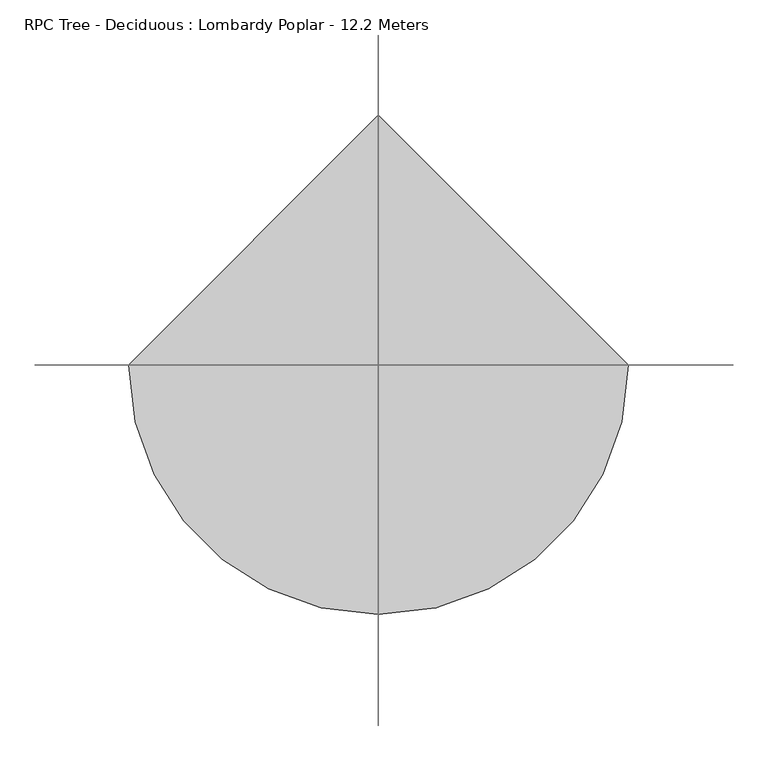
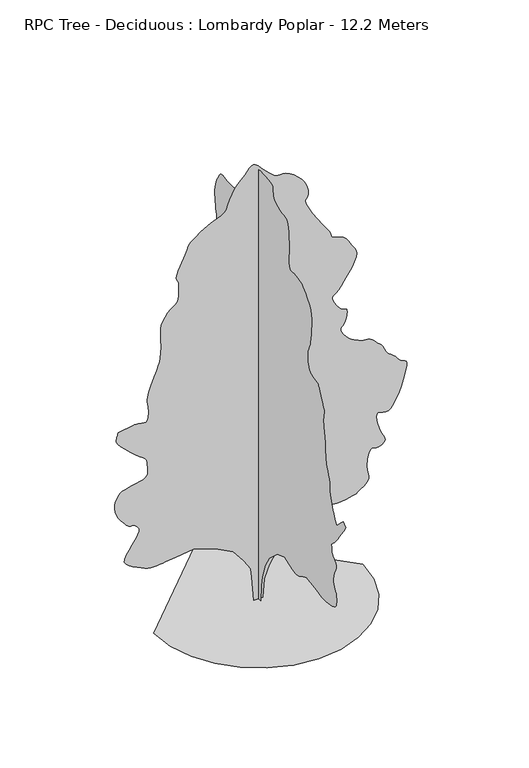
"""IFC4 building model written with IfcOpenShell, lengths in millimetres: geographic element geometry, RPC Tree - Deciduous : Lombardy Poplar - 12.2 Meters."""

from ifc_helpers import new_model, si_unit, origin, place, context, project, spatial, triangles, source, transform, mapped, element, save


def rpc_tree_deciduous_lombardy_poplar_12_2_meters_e292760b(model_context):
    return source(origin(), model_context, "Body", "Tessellation", [
        triangles([(0.0009702, 113.8903775, 0.0), (0.0009702, -104.9033079, 0.0), (0.0009702, -123.1361794, 437.5878977), (0.0009702, -177.8345485, 729.312315), (0.0009702, -323.695976, 1130.4323805), (0.0009702, -506.0246724, 1440.3907139), (0.0009702, -870.6795582, 1768.5802746), (0.0009702, -1217.1031076, 1896.2099842), (0.0009702, -1399.4317314, 1823.2794067), (0.0009702, -1477.3592422, 1796.3301796), (0.0009702, -1554.013139, 1771.7701962), (0.0009702, -1628.1128311, 1751.9959671), (0.0009702, -1698.3871754, 1739.3994976), (0.0009702, -1763.5554359, 1736.3672699), (0.0009702, -1822.3466148, 1745.2987015), (0.0009702, -1873.4849178, 1768.5802746), (0.0009702, -1920.3683933, 1798.2415455), (0.0009702, -1967.2544849, 1825.0332241), (0.0009702, -2014.1379604, 1849.4331882), (0.0009702, -2061.0214359, 1871.9166996), (0.0009702, -2107.9050568, 1892.969339), (0.0009702, -2154.791003, 1913.0611359), (0.0009702, -2201.6746239, 1932.6776711), (0.0009702, -2584.5657875, 1877.9785389), (0.0009702, -2650.9541771, 1862.4566666), (0.0009702, -2717.1899597, 1847.5726913), (0.0009702, -2783.0952393, 1833.9646557), (0.0009702, -2848.5429886, 1822.2704567), (0.0009702, -2913.3300224, 1813.1255207), (0.0009702, -2977.329023, 1807.1729771), (0.0009702, -3040.387674, 1805.045636), (0.0009702, -3113.6893044, 1807.4372051), (0.0009702, -3202.6219574, 1815.2528618), (0.0009702, -3298.2393768, 1829.4456001), (0.0009702, -3391.6453033, 1850.9733559), (0.0009702, -3473.8681915, 1880.7947914), (0.0009702, -3536.0117821, 1919.8652264), (0.0009702, -3569.1298187, 1969.1428871), (0.0009702, -3581.5837097, 2022.7771133), (0.0009702, -3588.2684761, 2074.4973576), (0.0009702, -3590.1747551, 2124.6265652), (0.0009702, -3588.2684761, 2173.4773624), (0.0009702, -3583.4899887, 2221.3724041), (0.0009702, -3576.7802238, 2268.6270779), (0.0009702, -3569.1298187, 2315.5638931), (0.0009702, -3534.359848, 2355.0613369), (0.0009702, -3502.0042648, 2397.1080437), (0.0009702, -3474.4018799, 2444.2583633), (0.0009702, -3453.9923698, 2499.0617043), (0.0009702, -3443.1648331, 2564.0801193), (0.0009702, -3444.2577896, 2641.8294434), (0.0009702, -3459.736496, 2734.9307373), (0.0009702, -3486.8051926, 2827.040522), (0.0009702, -3517.6864471, 2902.5786438), (0.0009702, -3547.2968491, 2965.0274483), (0.0009702, -3570.5276985, 3017.919278), (0.0009702, -3582.270005, 3064.7620583), (0.0009702, -3577.4156502, 3109.0378441), (0.0009702, -3550.9059311, 3154.2795593), (0.0009702, -3512.094928, 3195.2003174), (0.0009702, -3474.8849899, 3227.1998177), (0.0009702, -3440.8774727, 3254.7513336), (0.0009702, -3411.622863, 3282.2775604), (0.0009702, -3388.7733856, 3314.2770607), (0.0009702, -3373.8792366, 3355.1981094), (0.0009702, -3368.5670609, 3409.5386879), (0.0009702, -3364.9071098, 3462.7866005), (0.0009702, -3357.1040977, 3500.758992), (0.0009702, -3349.9112228, 3528.1834808), (0.0009702, -3348.1575508, 3549.8638435), (0.0009702, -3356.6212784, 3570.6038567), (0.0009702, -3380.0553131, 3595.1564278), (0.0009702, -3423.2637222, 3628.3250427), (0.0009702, -3483.805957, 3682.2845398), (0.0009702, -3554.8963852, 3763.0330994), (0.0009702, -3634.7298843, 3866.097448), (0.0009702, -3721.578653, 3987.029892), (0.0009702, -3813.7140175, 4121.3568672), (0.0009702, -3909.3311462, 4264.6048096), (0.0009702, -4006.7278175, 4412.3263161), (0.0009702, -3897.3344948, 4521.744928), (0.0009702, -3751.468689, 4394.1024284), (0.0009702, -3605.6025925, 4230.012735), (0.0009702, -3582.0921089, 4261.5802849), (0.0009702, -3558.302282, 4295.0794029), (0.0009702, -3533.825869, 4332.3910789), (0.0009702, -3508.4346863, 4375.4468811), (0.0009702, -3481.7473618, 4426.1527977), (0.0009702, -3453.4586815, 4486.4412689), (0.0009702, -3423.2637222, 4558.1924126), (0.0009702, -3392.2298607, 4631.6207794), (0.0009702, -3362.4671425, 4698.9495186), (0.0009702, -3335.2458389, 4765.3631973), (0.0009702, -3311.8626732, 4835.8943573), (0.0009702, -3293.5626274, 4915.6772781), (0.0009702, -3281.6677139, 5009.820369), (0.0009702, -3277.3976257, 5123.4070404), (0.0009702, -3269.2135323, 5238.2901443), (0.0009702, -3247.6349075, 5336.8812195), (0.0009702, -3217.1347343, 5425.3060547), (0.0009702, -3182.1615784, 5509.5363785), (0.0009702, -3147.1628426, 5595.7241409), (0.0009702, -3116.6629601, 5689.8422333), (0.0009702, -3095.0843353, 5798.0408615), (0.0009702, -3081.5880661, 5895.9965103), (0.0009702, -3071.9043549, 5963.3505386), (0.0009702, -3065.4230644, 6011.8708328), (0.0009702, -3061.4834793, 6053.4014374), (0.0009702, -3059.4754623, 6099.6852402), (0.0009702, -3058.7130089, 6162.5657043), (0.0009702, -3058.6112709, 6253.8368774), (0.0009702, -3054.5702385, 6347.2939636), (0.0009702, -3044.1493629, 6416.5036926), (0.0009702, -3029.9159294, 6472.9537354), (0.0009702, -3014.3863541, 6528.1335068), (0.0009702, -3000.1532112, 6593.5300964), (0.0009702, -2989.7323357, 6680.582341), (0.0009702, -2985.6910126, 6800.8284897), (0.0009702, -2991.2572426, 6913.2716263), (0.0009702, -3003.5335281, 6981.3628189), (0.0009702, -3015.8351028, 7023.299794), (0.0009702, -3021.4013329, 7057.2564423), (0.0009702, -3013.5986115, 7101.4304901), (0.0009702, -2985.6910126, 7173.9952469), (0.0009702, -2930.9943512, 7293.1228592), (0.0009702, -2868.6219955, 7422.976561), (0.0009702, -2820.6353897, 7519.3561432), (0.0009702, -2784.5945663, 7587.8287079), (0.0009702, -2758.1107178, 7633.959613), (0.0009702, -2738.8194534, 7663.3671204), (0.0009702, -2724.3063858, 7681.5904266), (0.0009702, -2712.1827072, 7694.2483749), (0.0009702, -2638.2965195, 7706.295314), (0.0009702, -2566.4945068, 7720.4525894), (0.0009702, -2498.8204399, 7738.7270554), (0.0009702, -2437.3730278, 7763.2290482), (0.0009702, -2384.2142086, 7796.0415802), (0.0009702, -2341.425396, 7839.199411), (0.0009702, -2311.0702721, 7894.8105515), (0.0009702, -2290.8183105, 7956.2428482), (0.0009702, -2276.3080044, 8015.7938644), (0.0009702, -2266.578511, 8073.7182358), (0.0009702, -2260.6793072, 8130.3973343), (0.0009702, -2257.6495502, 8186.1107941), (0.0009702, -2256.5313046, 8241.1632477), (0.0009702, -2256.3736107, 8295.9104874), (0.0009702, -2287.4709858, 8351.2169952), (0.0009702, -2317.6099892, 8410.0058487), (0.0009702, -2345.8351559, 8475.8093903), (0.0009702, -2371.1907303, 8552.1355453), (0.0009702, -2392.7211021, 8642.5172379), (0.0009702, -2409.4655743, 8750.4106522), (0.0009702, -2420.4685364, 8879.374292), (0.0009702, -2431.6848576, 9010.8290588), (0.0009702, -2445.4530579, 9127.2882294), (0.0009702, -2455.3934395, 9233.8857925), (0.0009702, -2455.1265953, 9335.6789978), (0.0009702, -2438.2754436, 9437.7779984), (0.0009702, -2398.4602867, 9545.3156204), (0.0009702, -2329.3041882, 9663.375856), (0.0009702, -2249.3561611, 9774.6498779), (0.0009702, -2178.6572788, 9861.3457489), (0.0009702, -2113.0620094, 9927.9370331), (0.0009702, -2048.4224957, 9978.9234558), (0.0009702, -1980.5956764, 10018.7256775), (0.0009702, -1905.4310783, 10051.8434235), (0.0009702, -1818.7857857, 10082.7252594), (0.0009702, -1726.6658272, 10101.4566742), (0.0009702, -1639.9671947, 10102.9310028), (0.0009702, -1561.8796646, 10098.9917084), (0.0009702, -1495.593013, 10101.4566742), (0.0009702, -1444.2971615, 10122.0693695), (0.0009702, -1411.1794155, 10172.6744202), (0.0009702, -1399.4317314, 10265.0641296), (0.0009702, -1401.3457134, 10369.4751984), (0.0009702, -1405.8114292, 10455.052533), (0.0009702, -1410.9150421, 10532.0141144), (0.0009702, -1414.7402447, 10610.5767609), (0.0009702, -1415.3781418, 10700.9584534), (0.0009702, -1410.9150421, 10813.3260132), (0.0009702, -1399.4317314, 10957.9206757), (0.0009702, -1383.5921459, 11104.7268311), (0.0009702, -1366.4740047, 11219.3303009), (0.0009702, -1346.8067459, 11305.2390106), (0.0009702, -1323.3115231, 11365.9341431), (0.0009702, -1294.7128326, 11404.9480408), (0.0009702, -1259.7344444, 11425.7897919), (0.0009702, -1217.1031076, 11431.9661591), (0.0009702, -1156.2404709, 11437.4821014), (0.0009702, -1074.0049381, 11453.8752869), (0.0009702, -980.2913269, 11480.7666687), (0.0009702, -884.9789761, 11517.8748688), (0.0009702, -797.9626305, 11564.8440948), (0.0009702, -729.1241724, 11621.4220367), (0.0009702, -688.3534052, 11687.2249969), (0.0009702, -673.3092653, 11757.0707336), (0.0009702, -668.4724966, 11824.0433899), (0.0009702, -663.953441, 11885.2722107), (0.0009702, -649.8675276, 11937.9096954), (0.0009702, -616.3252436, 11979.0595093), (0.0009702, -553.4419453, 12005.8485718), (0.0009702, -451.3255766, 12015.4049652), (0.0009702, -328.0015635, 12019.0907867), (0.0009702, -210.419678, 12026.8937988), (0.0009702, -102.0858745, 12034.0608032), (0.0009702, -6.5099094, 12035.8141846), (0.0009702, 72.8000803, 12027.3763275), (0.0009702, 132.3357269, 12003.9417114), (0.0009702, 168.5887284, 11960.7083038), (0.0009702, 190.3829832, 11911.6031616), (0.0009702, 211.2205557, 11869.1836578), (0.0009702, 234.6091899, 11826.7629913), (0.0009702, 264.0584098, 11777.6322693), (0.0009702, 303.0754686, 11715.1325958), (0.0009702, 355.1693819, 11632.5283356), (0.0009702, 423.847639, 11523.1361755), (0.0009702, 499.9145439, 11406.6002655), (0.0009702, 572.4739231, 11305.3913269), (0.0009702, 642.4814959, 11216.9420746), (0.0009702, 710.8954159, 11138.6840607), (0.0009702, 778.6688227, 11068.1023224), (0.0009702, 846.7624861, 11002.602832), (0.0009702, 916.132089, 10939.6717896), (0.0009702, 984.3859171, 10887.6947296), (0.0009702, 1049.1322557, 10854.1956116), (0.0009702, 1111.3241718, 10835.3874573), (0.0009702, 1171.9250513, 10827.4065491), (0.0009702, 1231.8854176, 10826.440329), (0.0009702, 1292.1634243, 10828.6774017), (0.0009702, 1353.7199867, 10830.2784668), (0.0009702, 1420.0599781, 10835.869986), (0.0009702, 1491.5035824, 10848.1459808), (0.0009702, 1564.2205101, 10860.4231384), (0.0009702, 1634.3881748, 10865.9890778), (0.0009702, 1698.1762871, 10858.1860657), (0.0009702, 1751.7570282, 10830.2784668), (0.0009702, 1791.3078117, 10775.5818054), (0.0009702, 1825.3814587, 10707.9731415), (0.0009702, 1862.9624496, 10643.2119781), (0.0009702, 1900.8637699, 10577.5101746), (0.0009702, 1935.8928818, 10507.0295929), (0.0009702, 1964.8627705, 10427.9332581), (0.0009702, 1984.5861305, 10336.4086121), (0.0009702, 1991.8679535, 10228.5907745), (0.0009702, 1989.7406124, 10117.6475464), (0.0009702, 1983.7879234, 10017.5559814), (0.0009702, 1974.6456036, 9925.75112), (0.0009702, 1962.9514046, 9839.6912567), (0.0009702, 1949.3433689, 9756.8323608), (0.0009702, 1934.4593937, 9674.610054), (0.0009702, 1918.9375214, 9590.455307), (0.0009702, 1915.5875805, 9511.6130264), (0.0009702, 1932.3320526, 9444.2589981), (0.0009702, 1962.471056, 9384.2504517), (0.0009702, 1999.3099411, 9327.4190369), (0.0009702, 2036.1488262, 9269.6469818), (0.0009702, 2066.2878296, 9206.7659363), (0.0009702, 2083.0323017, 9134.6337112), (0.0009702, 2082.5544239, 9064.6106598), (0.0009702, 2068.0415016, 9007.7030869), (0.0009702, 2043.3239697, 8959.0554749), (0.0009702, 2012.2265945, 8913.9157883), (0.0009702, 1978.5801018, 8867.505249), (0.0009702, 1946.2069324, 8815.045079), (0.0009702, 1918.9375214, 8751.7320831), (0.0009702, 1903.0953197, 8679.3963821), (0.0009702, 1901.6083466, 8603.858551), (0.0009702, 1913.195866, 8526.4138596), (0.0009702, 1936.584264, 8448.3337418), (0.0009702, 1970.4976009, 8370.8640518), (0.0009702, 2013.6626987, 8295.3256393), (0.0009702, 2064.7983856, 8222.9899384), (0.0009702, 2117.5836811, 8163.4133423), (0.0009702, 2167.8170975, 8119.112558), (0.0009702, 2217.4124714, 8080.9114014), (0.0009702, 2268.2839302, 8039.4819534), (0.0009702, 2322.3450199, 7985.6497742), (0.0009702, 2381.5073971, 7910.1113617), (0.0009702, 2447.6872238, 7803.6411163), (0.0009702, 2517.1100212, 7689.1899628), (0.0009702, 2585.5825859, 7593.5731247), (0.0009702, 2654.3597832, 7513.2309357), (0.0009702, 2724.7386269, 7444.7333725), (0.0009702, 2797.9893883, 7384.4957703), (0.0009702, 2875.3829201, 7329.0619446), (0.0009702, 2958.2156548, 7274.8739731), (0.0009702, 3041.988739, 7232.046936), (0.0009702, 3121.6190529, 7206.7316208), (0.0009702, 3197.4115196, 7189.7280075), (0.0009702, 3269.6963516, 7171.7587555), (0.0009702, 3338.8043427, 7143.5971024), (0.0009702, 3405.0398346, 7095.9662888), (0.0009702, 3468.7339119, 7019.6145538), (0.0009702, 3527.5736343, 6926.1324692), (0.0009702, 3577.7967316, 6834.2258698), (0.0009702, 3617.5230858, 6745.496402), (0.0009702, 3644.7696785, 6661.5707108), (0.0009702, 3657.7066795, 6583.9992828), (0.0009702, 3654.3516518, 6514.4337616), (0.0009702, 3632.823896, 6454.3996353), (0.0009702, 3592.3603775, 6396.7293182), (0.0009702, 3536.9268425, 6334.585437), (0.0009702, 3471.6061203, 6270.2306442), (0.0009702, 3401.4816216, 6205.8502716), (0.0009702, 3331.6876259, 6143.7069717), (0.0009702, 3267.3072533, 6086.0366547), (0.0009702, 3213.4747833, 6035.0508133), (0.0009702, 3163.8615326, 5989.0210648), (0.0009702, 3111.4016533, 5943.6273239), (0.0009702, 3059.8821236, 5897.267363), (0.0009702, 3013.1663704, 5848.3656967), (0.0009702, 2975.0669518, 5795.3212601), (0.0009702, 2949.3705551, 5736.5324066), (0.0009702, 2939.966478, 5670.3986526), (0.0009702, 2936.1033417, 5601.0871857), (0.0009702, 2926.8007118, 5533.3517853), (0.0009702, 2915.5665138, 5466.6081848), (0.0009702, 2905.9589607, 5400.1436371), (0.0009702, 2901.4348183, 5333.3738754), (0.0009702, 2905.5270103, 5265.6640549), (0.0009702, 2921.742881, 5196.3531693), (0.0009702, 2946.7782715, 5129.7357239), (0.0009702, 2974.6855797, 5069.8289154), (0.0009702, 3004.9822769, 5015.5136261), (0.0009702, 3037.1852531, 4965.6463211), (0.0009702, 3070.8366875, 4919.1340439), (0.0009702, 3105.4543419, 4874.8579674), (0.0009702, 3140.5292358, 4831.7007179), (0.0009702, 3183.2289551, 4838.4869316), (0.0009702, 3224.1497131, 4839.2493851), (0.0009702, 3261.5631271, 4827.8625801), (0.0009702, 3293.7405235, 4798.3030472), (0.0009702, 3318.877652, 4744.5214462), (0.0009702, 3335.2458389, 4660.4178589), (0.0009702, 3341.091703, 4539.9685249), (0.0009702, 3341.091703, 3938.2808327), (0.0009702, 3347.8017586, 3760.1103127), (0.0009702, 3363.4330719, 3613.5070518), (0.0009702, 3381.2752968, 3494.3285706), (0.0009702, 3394.6701187, 3398.431517), (0.0009702, 3396.9066101, 3321.6734116), (0.0009702, 3381.2752968, 3259.8856133), (0.0009702, 3341.091703, 3208.9762207), (0.0009702, 3283.7263092, 3180.3314575), (0.0009702, 3223.8195007, 3176.2395561), (0.0009702, 3165.5137573, 3178.8321304), (0.0009702, 3112.95214, 3170.2666649), (0.0009702, 3070.2521301, 3132.7009346), (0.0009702, 3041.6076576, 3048.2159752), (0.0009702, 3031.1359131, 2899.0204308), (0.0009702, 3038.0494446, 2734.6002342), (0.0009702, 3055.1547958, 2610.6941345), (0.0009702, 3077.0639236, 2518.6782394), (0.0009702, 3098.3376251, 2449.9466789), (0.0009702, 3113.5366974, 2395.8855892), (0.0009702, 3117.2475174, 2347.8837227), (0.0009702, 3104.0561714, 2297.3325932), (0.0009702, 3091.0938812, 2255.6569393), (0.0009702, 3091.8307549, 2234.0756985), (0.0009702, 3095.4654167, 2223.657439), (0.0009702, 3091.0938812, 2215.4707294), (0.0009702, 3067.9139008, 2200.5867542), (0.0009702, 3015.0726494, 2170.0740818), (0.0009702, 2921.742881, 2115.0038967), (0.0009702, 2824.1938934, 2054.1920563), (0.0009702, 2755.3655365, 2010.2848526), (0.0009702, 2699.2709953, 1980.0923641), (0.0009702, 2639.9996132, 1960.4249599), (0.0009702, 2561.6145721, 1948.0928638), (0.0009702, 2448.1142326, 1939.9061543), (0.0009702, 2283.5922981, 1932.6776711), (0.0009702, 2107.2721012, 1934.962706), (0.0009702, 1964.7585617, 1953.194006), (0.0009702, 1849.6721272, 1980.9972507), (0.0009702, 1755.6381866, 2011.9851849), (0.0009702, 1676.2747169, 2039.7859589), (0.0009702, 1605.2047817, 2058.0197296), (0.0009702, 1536.0486832, 2060.3047646), (0.0009702, 1461.4686424, 2050.3642376), (0.0009702, 1379.2357258, 2036.5986534), (0.0009702, 1290.6232567, 2019.6406769), (0.0009702, 1196.9070293, 2000.1334373), (0.0009702, 1099.3656721, 1978.709745), (0.0009702, 999.2698923, 1956.0127293), (0.0009702, 897.9007891, 1932.6776711), (0.0009702, 533.2433599, 1640.9507103), (0.0009702, 314.4519545, 1166.90014), (0.0009702, 168.5887284, 601.6827144), (120.2564769, 0.0005338, 0.0085401), (-116.7693169, 0.0005338, 0.0085401), (-171.467677, 0.0004852, 656.3894405), (-207.9336742, 0.0004852, 911.6486418), (-390.2621163, 0.000461, 1203.3730591), (-663.7526539, 0.0004367, 1549.7965359), (-1137.8057676, 0.0004124, 1805.0556644), (-1721.2571457, 0.0004124, 1987.3818901), (-2195.307716, 0.0004124, 1932.6853741), (-2468.8007607, 0.0004124, 1896.220158), (-2535.4583199, 0.0004124, 1886.7041691), (-2609.1436478, 0.0004124, 1875.9122406), (-2687.9097702, 0.0004124, 1867.0367649), (-2769.8786041, 0.0004124, 1863.262286), (-2853.118, 0.0004124, 1867.7814869), (-2935.7219696, 0.0004124, 1883.781237), (-3015.7842339, 0.0004124, 1914.451458), (-3106.3182426, 0.0004124, 1956.8718338), (-3213.0937019, 0.0004124, 2005.9868591), (-3323.4017944, 0.0004124, 2061.8043823), (-3424.4581261, 0.0004124, 2124.316555), (-3503.5038826, 0.0003882, 2193.5259933), (-3547.7796684, 0.0003882, 2269.4326973), (-3544.5263786, 0.0003882, 2352.039283), (-3497.4801224, 0.0003882, 2448.838607), (-3427.1777275, 0.0003882, 2561.589283), (-3345.9972176, 0.0003639, 2681.6572449), (-3266.4177727, 0.0003639, 2800.4802246), (-3200.8682854, 0.0003639, 2909.3904373), (-3161.8029373, 0.0003397, 2999.797419), (-3161.6503304, 0.0003397, 3063.1101242), (-3185.0843651, 0.0003397, 3105.2255768), (-3208.5186905, 0.0003397, 3138.699115), (-3231.9783051, 0.0003397, 3165.0306473), (-3255.4123398, 0.0003397, 3185.5927643), (-3278.8463745, 0.0003397, 3201.8595039), (-3302.3059891, 0.0003397, 3215.2540352), (-3325.7400238, 0.0003397, 3227.2253975), (-3349.3522453, 0.0003397, 3223.6924736), (-3373.9045258, 0.0003397, 3222.5995171), (-3400.3633759, 0.0003397, 3226.2594681), (-3429.7194328, 0.0003397, 3237.112294), (-3462.8883385, 0.0003397, 3257.521804), (-3500.8351501, 0.0003397, 3289.8770966), (-3544.5263786, 0.0003397, 3336.6184296), (-3595.9950394, 0.0003397, 3397.7455124), (-3652.5471107, 0.0003154, 3470.6657707), (-3708.1585419, 0.0003154, 3553.8034286), (-3756.729705, 0.0003154, 3645.5574211), (-3792.2368401, 0.0003154, 3744.3263924), (-3808.6306068, 0.0002911, 3848.5092773), (-3799.7855072, 0.0002911, 3956.5300095), (-3773.9115051, 0.0002911, 4054.2313133), (-3742.2677971, 0.0002911, 4130.8879715), (-3703.6343994, 0.0002911, 4189.9817482), (-3656.6898811, 0.0002669, 4235.0708565), (-3600.1886787, 0.0002669, 4269.6120621), (-3532.8346504, 0.0002669, 4297.163578), (-3453.3825233, 0.0002669, 4321.1821701), (-3359.0103767, 0.0002669, 4341.1597298), (-3254.4719902, 0.0002669, 4358.2906609), (-3149.5775208, 0.0002669, 4378.5984329), (-3054.2650246, 0.0002669, 4408.1579659), (-2978.4219795, 0.0002669, 4453.018309), (-2931.9094116, 0.0002669, 4519.2540916), (-2924.6147987, 0.0002669, 4612.9143631), (-2935.5184937, 0.0002426, 4710.7174049), (-2940.34785, 0.0002426, 4788.1112274), (-2944.2365662, 0.0002426, 4849.2380196), (-2952.2680527, 0.0002426, 4898.2411331), (-2969.5260109, 0.0002426, 4939.289209), (-3001.1697189, 0.0002426, 4976.499147), (-3052.2572983, 0.0002426, 5014.0392975), (-3137.5552895, 0.0002184, 5075.3698563), (-3257.0134048, 0.0002184, 5172.1052307), (-3393.3483971, 0.0002184, 5290.5468384), (-3529.3781754, 0.0002184, 5416.9437744), (-3647.8703613, 0.0001941, 5537.6218735), (-3731.5928673, 0.0001941, 5638.8308121), (-3763.3380226, 0.0001941, 5706.8714264), (-3761.7369576, 0.0001941, 5751.0960526), (-3757.2636841, 0.0001941, 5790.5430634), (-3750.4010216, 0.0001941, 5825.9990387), (-3741.6323708, 0.0001698, 5858.2528839), (-3731.4402603, 0.0001698, 5888.1429199), (-3720.2825111, 0.0001698, 5916.4057297), (-3708.6416519, 0.0001698, 5943.906958), (-3271.0436531, 0.0001698, 6016.8269257), (-3176.2139763, 0.0001698, 6018.4285721), (-3095.0843353, 0.0001698, 6002.7969681), (-3028.0096504, 0.0001698, 5986.1997253), (-2975.270137, 0.0001698, 5984.929454), (-2937.2215874, 0.0001698, 6015.2258606), (-2914.1433449, 0.0001698, 6093.3821365), (-2906.3912018, 0.0001698, 6235.6135712), (-2912.8724922, 0.0001456, 6381.32677), (-2927.0041878, 0.0001456, 6474.7326965), (-2940.8306694, 0.0001456, 6539.4182831), (-2946.3716103, 0.0001456, 6598.9948792), (-2935.6202316, 0.0001213, 6677.0999954), (-2900.6470757, 0.0001213, 6797.269986), (-2833.4453636, 0.0001213, 6983.1673599), (-2756.1535698, 9.7e-05, 7180.2733521), (-2695.1535141, 9.7e-05, 7329.8496872), (-2648.7935532, 9.7e-05, 7449.1301971), (-2615.5232002, 7.28e-05, 7555.3463882), (-2593.7158104, 7.28e-05, 7665.7053497), (-2581.8208969, 7.28e-05, 7797.4141708), (-2578.186235, 4.85e-05, 7967.7311005), (-2581.6938698, 4.85e-05, 8141.3013199), (-2588.4036346, 4.85e-05, 8277.8644958), (-2592.5466957, 2.43e-05, 8387.3083969), (-2588.4036346, 2.43e-05, 8479.5457901), (-2570.2309067, 2.43e-05, 8564.4371201), (-2532.2710144, 2.43e-05, 8651.8701553), (-2468.8007607, 0.0, 8751.757663), (-2395.1256065, 0.0, 8844.6043213), (-2330.3792679, 0.0, 8909.7218582), (-2274.5643608, 0.0, 8955.0650208), (-2227.6808853, 0.0, 8988.6152985), (-2189.7262253, 0.0, 9018.3274384), (-2160.7029968, 0.0, 9052.1823486), (-2140.6085838, 0.0, 9098.1609375), (-2127.1072277, -2.43e-05, 9141.3437668), (-2117.4336903, -2.43e-05, 9168.8699936), (-2110.9473129, -2.43e-05, 9191.9482361), (-2107.0154308, -2.43e-05, 9221.7109543), (-2104.9947693, -2.43e-05, 9269.3417679), (-2104.2500473, -2.43e-05, 9345.9981354), (-2104.1458385, -2.43e-05, 9462.838678), (-2114.4574184, -4.85e-05, 9573.8330658), (-2137.5281033, -4.85e-05, 9640.805722), (-2161.5543983, -4.85e-05, 9686.7337326), (-2174.7354252, -4.85e-05, 9734.5680222), (-2165.2753922, -4.85e-05, 9807.2850952), (-2121.3657177, -7.28e-05, 9927.8358765), (-2031.2129356, -7.28e-05, 10119.1974518), (-1940.7398243, -7.28e-05, 10312.5926239), (-1890.135355, -9.7e-05, 10438.3535522), (-1858.9847855, -9.7e-05, 10518.2126312), (-1826.8784603, -9.7e-05, 10573.7987732), (-1773.4019279, -9.7e-05, 10626.8687897), (-1678.1453876, -9.7e-05, 10699.0527557), (-1520.6945332, -0.0001213, 10812.0551605), (-1342.5671791, -0.0001213, 10924.4727173), (-1196.3326458, -0.0001213, 10992.5894897), (-1078.165658, -0.0001213, 11034.5264648), (-984.2359989, -0.0001213, 11068.4836945), (-910.7209368, -0.0001213, 11112.6577423), (-853.7901821, -0.0001456, 11185.2219177), (-809.6161343, -0.0001456, 11304.34953), (-760.4450804, -0.0001456, 11447.9791351), (-695.3276888, -0.0001698, 11580.450119), (-620.643512, -0.0001698, 11699.5021545), (-542.7695226, -0.0001698, 11802.9470032), (-468.082766, -0.0001698, 11888.5255005), (-402.9678815, -0.0001698, 11954.0238281), (-353.7969003, -0.0001941, 11997.1816589), (-315.471151, -0.0001941, 12037.7466248), (-277.1428946, -0.0001941, 12089.4690491), (-236.5850686, -0.0001941, 12141.1914734), (-191.5607819, -0.0001941, 12181.7564392), (-139.8392296, -0.0001941, 12199.9809082), (-79.1872813, -0.0001941, 12184.7306763), (-7.3724481, -0.0001941, 12124.8238678), (68.5354242, -0.0001941, 12043.2102448), (139.978002, -0.0001941, 11969.908905), (206.9556453, -0.0001698, 11904.2582611), (269.4670731, -0.0001698, 11845.6467224), (327.5160916, -0.0001698, 11793.3906097), (381.0969054, -0.0001698, 11746.8783325), (430.2145105, -0.0001698, 11705.4750458), (477.6292399, -0.0001698, 11680.1091522), (528.236289, -0.0001698, 11674.5176331), (585.2203471, -0.0001698, 11677.2372345), (651.7712631, -0.0001698, 11676.7535431), (731.0813204, -0.0001698, 11661.6056305), (826.3377153, -0.0001698, 11620.3035004), (940.7328403, -0.0001456, 11541.3594818), (1053.7962152, -0.0001456, 11441.8539276), (1144.2183849, -0.0001456, 11345.8551361), (1213.9057011, -0.0001456, 11252.3980499), (1264.7770145, -0.0001456, 11160.5420288), (1298.7438366, -0.0001213, 11069.3220154), (1317.7198586, -0.0001213, 10977.7962067), (1323.6216785, -0.0001213, 10884.9751282), (1311.5004707, -0.0001213, 10814.3933899), (1284.7112629, -0.0001213, 10775.7085419), (1257.5994003, -0.0001213, 10747.1916779), (1244.5225822, -9.7e-05, 10707.2371399), (1259.8335663, -9.7e-05, 10634.0881165), (1317.8800232, -9.7e-05, 10506.0889526), (1433.0173267, -7.28e-05, 10301.536322), (1569.3648182, -7.28e-05, 10081.0474548), (1682.1104073, -4.85e-05, 9912.86586), (1772.2123203, -4.85e-05, 9786.7735565), (1840.6236969, -4.85e-05, 9692.579306), (1888.3053795, -4.85e-05, 9620.0657089), (1916.212833, -4.85e-05, 9559.0403641), (1925.3042839, -2.43e-05, 9499.2858719), (1944.8650085, -2.43e-05, 9450.4859436), (1996.9589218, -2.43e-05, 9421.4603897), (2071.6965111, -2.43e-05, 9400.7459564), (2159.1932053, -2.43e-05, 9376.8288116), (2249.5594917, -2.43e-05, 9338.2207031), (2332.9107994, -2.43e-05, 9273.4845383), (2399.3574703, -2.43e-05, 9171.106485), (2456.2346672, 0.0, 9061.1794739), (2512.7942963, 0.0, 8974.8393951), (2562.0212334, 0.0, 8902.2240601), (2596.892942, 0.0, 8833.4468628), (2610.3892113, 0.0, 8758.594455), (2595.4950623, 2.43e-05, 8667.8063919), (2545.2208054, 2.43e-05, 8551.1949051), (2482.9731514, 2.43e-05, 8437.658812), (2433.4843117, 2.43e-05, 8355.0295532), (2391.6486385, 2.43e-05, 8291.8944534), (2352.3646992, 4.85e-05, 8236.7152634), (2310.5314968, 4.85e-05, 8178.0281479), (2261.0426571, 4.85e-05, 8104.3454361), (2198.7948578, 4.85e-05, 8004.2038742), (2128.4161594, 4.85e-05, 7909.2218811), (2062.1829929, 7.28e-05, 7849.3150726), (2006.4749107, 7.28e-05, 7810.4529099), (1967.6687038, 7.28e-05, 7778.6060165), (1952.1468315, 7.28e-05, 7739.7438538), (1966.2887009, 7.28e-05, 7679.8370453), (2016.4686321, 7.28e-05, 7584.8550522), (2082.0105618, 7.28e-05, 7483.0612656), (2138.9412437, 9.7e-05, 7408.9971817), (2188.6943115, 9.7e-05, 7358.0880798), (2232.7108109, 9.7e-05, 7325.6563385), (2272.4166721, 9.7e-05, 7307.1022385), (2309.2555573, 9.7e-05, 7297.7993179), (2344.6583382, 9.7e-05, 7293.1228592), (2348.379332, 9.7e-05, 7265.4187363), (2350.9845509, 9.7e-05, 7235.6560181), (2351.3556038, 9.7e-05, 7201.7499481), (2348.379332, 9.7e-05, 7161.617514), (2340.9373444, 9.7e-05, 7113.1983765), (2327.913866, 0.0001213, 7054.4101044), (2308.1931221, 0.0001213, 6983.1673599), (2279.3274422, 0.0001213, 6918.9648834), (2244.722723, 0.0001213, 6875.7820541), (2212.0318405, 0.0001213, 6843.4776306), (2188.9078159, 0.0001213, 6811.7830536), (2183.0086121, 0.0001213, 6770.5315018), (2201.984634, 0.0001213, 6709.5061569), (2253.4939899, 0.0001456, 6618.5146179), (2323.6616547, 0.0001456, 6523.7872604), (2392.871093, 0.0001456, 6454.5775314), (2460.1666946, 0.0001456, 6405.1421768), (2524.592704, 0.0001456, 6369.7367798), (2585.2012138, 0.0001456, 6342.6175049), (2641.0161209, 0.0001456, 6318.0649338), (2691.0869019, 0.0001456, 6290.3096512), (2740.0394371, 0.0001456, 6267.8924149), (2792.4993164, 0.0001456, 6258.2087036), (2847.5261902, 0.0001698, 6253.9641953), (2904.1291306, 0.0001698, 6247.7878281), (2961.3927864, 0.0001698, 6232.3852798), (3018.3259392, 0.0001698, 6200.3860703), (3073.9629501, 0.0001698, 6144.4691345), (3123.5000427, 0.0001698, 6088.0696701), (3164.4460899, 0.0001698, 6052.7154327), (3199.3177986, 0.0001698, 6028.2134399), (3230.6818726, 0.0001698, 6004.3474548), (3261.0803078, 0.0001698, 5970.8989151), (3293.079808, 0.0001698, 5917.7021622), (3329.2220787, 0.0001941, 5834.5136353), (3369.5329903, 0.0001941, 5750.0798355), (3412.6902397, 0.0001941, 5692.7903091), (3459.3554146, 0.0001941, 5651.7428146), (3510.1630692, 0.0001941, 5616.1339417), (3565.774791, 0.0001941, 5575.0858658), (3626.8001358, 0.0001941, 5517.7969208), (3693.87453, 0.0002184, 5433.3881195), (3762.397673, 0.0002184, 5358.4345551), (3824.5412636, 0.0002184, 5322.6989456), (3876.1625313, 0.0002184, 5305.161644), (3913.0928352, 0.0002184, 5284.7518433), (3931.240274, 0.0002184, 5240.4254791), (3926.3859192, 0.0002184, 5151.1111633), (3894.4369972, 0.0002426, 4995.7904114), (3842.409359, 0.0002426, 4804.5811523), (3781.7398064, 0.0002669, 4624.8601456), (3715.0464935, 0.0002669, 4461.4058784), (3644.8205475, 0.0002669, 4318.9965477), (3573.6539612, 0.0002911, 4202.4356392), (3504.0631508, 0.0002911, 4116.4766418), (3438.6154015, 0.0002911, 4065.9230415), (3370.8038429, 0.0002911, 4054.7144234), (3297.8580048, 0.0002911, 4069.9643646), (3228.1148781, 0.0002911, 4091.2889351), (3169.8600037, 0.0002911, 4098.2530449), (3131.379213, 0.0002911, 4070.447184), (3120.9583374, 0.0002911, 3987.4618423), (3146.9087883, 0.0002911, 3828.8875099), (3198.9364265, 0.0003154, 3650.9204659), (3255.1327057, 0.0003154, 3516.9748627), (3306.2199944, 0.0003154, 3417.4687271), (3342.947113, 0.0003397, 3342.8200859), (3356.0620102, 0.0003397, 3283.4975441), (3336.3643753, 0.0003397, 3229.9194191), (3274.525708, 0.0003397, 3172.5031563), (3194.0056229, 0.0003397, 3136.3100166), (3123.6779388, 0.0003397, 3137.4282623), (3062.601725, 0.0003397, 3152.9069687), (3009.8113426, 0.0003397, 3159.7696312), (2964.3664421, 0.0003397, 3135.039164), (2925.3010941, 0.0003397, 3055.7902222), (2891.6496597, 0.0003639, 2899.0204308), (2877.9754944, 0.0003639, 2720.9007797), (2889.5146156, 0.0003882, 2585.811351), (2911.2458473, 0.0003882, 2483.2830162), (2928.2241714, 0.0003882, 2402.7505772), (2925.402832, 0.0003882, 2333.7011581), (2887.8115219, 0.0003882, 2265.6074947), (2800.4802246, 0.0003882, 2187.9445026), (2703.3631874, 0.0004124, 2116.5008984), (2637.5087769, 0.0004124, 2069.6174229), (2589.4965912, 0.0004124, 2040.5941944), (2545.9579697, 0.0004124, 2022.7339474), (2493.4954742, 0.0004124, 2009.3368), (2418.7045452, 0.0004124, 1993.7081028), (2308.1931221, 0.0004124, 1969.1505901), (2183.5398296, 0.0004124, 1948.1539066), (2072.2835392, 0.0004124, 1944.0592438), (1969.9562096, 0.0004124, 1951.4503624), (1872.0945957, 0.0004124, 1964.8983788), (1774.2329819, 0.0004124, 1978.9842922), (1671.9056522, 0.0004124, 1988.2867767), (1560.6495071, 0.0004124, 1987.3818901), (1455.6634735, 0.0004124, 1977.4415085), (1372.6858349, 0.0004124, 1963.675779), (1308.0463211, 0.0004124, 1946.7178024), (1258.0797489, 0.0004124, 1927.2105629), (1219.1160662, 0.0004124, 1905.7868706), (1187.4876188, 0.0004124, 1883.0898548), (1159.5268255, 0.0004124, 1859.7547966), (1159.2065689, 0.0004367, 1762.4244003), (1156.9749464, 0.0004367, 1667.1653893), (1150.9131071, 0.0004367, 1576.0569969), (1139.1146994, 0.0004367, 1491.1655216), (1119.6582561, 0.0004367, 1414.5648193), (1090.6350277, 0.000461, 1348.3316528), (1050.1285612, 0.000461, 1294.5374073), (1004.8386658, 0.000461, 1252.4372154), (962.4209061, 0.000461, 1218.9483438), (922.3922447, 0.000461, 1192.6370138), (884.2800362, 0.000461, 1172.0648684), (847.601243, 0.000461, 1155.7982014), (811.8807489, 0.000461, 1142.401054), (776.63806, 0.000461, 1130.4425543), (466.6797629, 0.000461, 1130.4425543), (284.3510483, 0.0004852, 856.9495096), (156.7227194, 0.0005095, 510.5259602), (-2767.8705872, 0.0, 0.0100928), (-2694.6959839, -634.216012, 0.0100928), (-2486.310157, -1216.6404905, 0.0100928), (-2159.3761883, -1730.5901516, 0.0100928), (-1730.5901516, -2159.3761883, 0.0100928), (-1216.6404905, -2486.310157, 0.0100928), (-634.216012, -2694.6959839, 0.0100928), (0.000121, -2767.8705872, 0.0100928), (634.216012, -2694.6959839, 0.0100928), (1216.6404905, -2486.310157, 0.0100928), (1730.5901516, -2159.3761883, 0.0100928), (2159.3761883, -1730.5901516, 0.0100928), (2486.310157, -1216.6404905, 0.0100928), (2694.6959839, -634.216012, 0.0100928), (2767.8705872, 0.0002426, 0.0100928), (-0.000363, 2767.8705872, 0.0100928)], [[1, 2, 3], [388, 1, 3], [388, 3, 4], [387, 388, 4], [387, 4, 5], [80, 81, 82], [79, 80, 82], [79, 82, 83], [78, 79, 83], [77, 78, 83], [387, 5, 6], [386, 387, 6], [76, 77, 83], [386, 6, 7], [359, 360, 361], [359, 361, 362], [385, 386, 7], [75, 76, 83], [75, 83, 84], [75, 84, 85], [74, 75, 85], [73, 74, 85], [73, 85, 86], [72, 73, 86], [72, 86, 87], [358, 359, 362], [358, 362, 363], [72, 87, 88], [131, 132, 133], [71, 72, 88], [130, 131, 133], [129, 130, 133], [71, 88, 89], [44, 45, 46], [128, 129, 133], [71, 89, 90], [207, 208, 209], [207, 209, 210], [206, 207, 210], [205, 206, 210], [205, 210, 211], [205, 211, 212], [204, 205, 212], [204, 212, 213], [203, 204, 213], [203, 213, 214], [203, 214, 215], [202, 203, 215], [202, 215, 216], [201, 202, 216], [200, 201, 216], [199, 200, 216], [198, 199, 216], [197, 198, 216], [196, 197, 216], [195, 196, 216], [194, 195, 216], [194, 216, 217], [193, 194, 217], [193, 217, 218], [193, 218, 219], [192, 193, 219], [192, 219, 220], [191, 192, 220], [191, 220, 221], [191, 221, 222], [190, 191, 222], [190, 222, 223], [128, 133, 134], [127, 128, 134], [71, 90, 91], [235, 236, 237], [234, 235, 237], [233, 234, 237], [233, 237, 238], [232, 233, 238], [232, 238, 239], [231, 232, 239], [231, 239, 240], [231, 240, 241], [231, 241, 242], [230, 231, 242], [230, 242, 243], [230, 243, 244], [230, 244, 245], [229, 230, 245], [229, 245, 246], [228, 229, 246], [228, 246, 247], [227, 228, 247], [227, 247, 248], [227, 248, 249], [226, 227, 249], [226, 249, 250], [226, 250, 251], [225, 226, 251], [225, 251, 252], [224, 225, 252], [71, 91, 92], [189, 190, 223], [330, 331, 332], [330, 332, 333], [329, 330, 333], [329, 333, 334], [328, 329, 334], [328, 334, 335], [328, 335, 336], [327, 328, 336], [385, 7, 8], [342, 343, 344], [341, 342, 344], [341, 344, 345], [340, 341, 345], [340, 345, 346], [339, 340, 346], [339, 346, 347], [338, 339, 347], [337, 338, 347], [337, 347, 348], [336, 337, 348], [327, 336, 348], [326, 327, 348], [325, 326, 348], [324, 325, 348], [323, 324, 348], [126, 127, 134], [126, 134, 135], [357, 358, 363], [357, 363, 364], [356, 357, 364], [355, 356, 364], [354, 355, 364], [353, 354, 364], [353, 364, 365], [352, 353, 365], [352, 365, 366], [352, 366, 367], [352, 367, 368], [352, 368, 369], [352, 369, 370], [351, 352, 370], [351, 370, 371], [351, 371, 372], [350, 351, 372], [350, 372, 373], [350, 373, 374], [350, 374, 375], [350, 375, 376], [349, 350, 376], [349, 376, 377], [348, 349, 377], [323, 348, 377], [323, 377, 378], [323, 378, 379], [323, 379, 380], [322, 323, 380], [322, 380, 381], [322, 381, 382], [321, 322, 382], [321, 382, 383], [321, 383, 384], [321, 384, 385], [321, 385, 8], [320, 321, 8], [319, 320, 8], [318, 319, 8], [317, 318, 8], [316, 317, 8], [315, 316, 8], [314, 315, 8], [313, 314, 8], [57, 58, 59], [56, 57, 59], [56, 59, 60], [55, 56, 60], [55, 60, 61], [54, 55, 61], [54, 61, 62], [53, 54, 62], [53, 62, 63], [53, 63, 64], [52, 53, 64], [36, 37, 38], [36, 38, 39], [35, 36, 39], [35, 39, 40], [35, 40, 41], [34, 35, 41], [34, 41, 42], [34, 42, 43], [33, 34, 43], [33, 43, 44], [33, 44, 46], [33, 46, 47], [32, 33, 47], [32, 47, 48], [31, 32, 48], [30, 31, 48], [30, 48, 49], [29, 30, 49], [28, 29, 49], [27, 28, 49], [26, 27, 49], [26, 49, 50], [25, 26, 50], [24, 25, 50], [24, 50, 51], [23, 24, 51], [23, 51, 52], [23, 52, 64], [23, 64, 65], [23, 65, 66], [23, 66, 67], [23, 67, 68], [23, 68, 69], [23, 69, 70], [22, 23, 70], [21, 22, 70], [20, 21, 70], [19, 20, 70], [18, 19, 70], [125, 126, 135], [125, 135, 136], [189, 223, 224], [189, 224, 252], [189, 252, 253], [188, 189, 253], [187, 188, 253], [186, 187, 253], [185, 186, 253], [184, 185, 253], [183, 184, 253], [182, 183, 253], [181, 182, 253], [180, 181, 253], [179, 180, 253], [178, 179, 253], [177, 178, 253], [176, 177, 253], [175, 176, 253], [174, 175, 253], [173, 174, 253], [172, 173, 253], [172, 253, 254], [172, 254, 255], [172, 255, 256], [172, 256, 257], [172, 257, 258], [172, 258, 259], [172, 259, 260], [172, 260, 261], [172, 261, 262], [172, 262, 263], [172, 263, 264], [172, 264, 265], [172, 265, 266], [172, 266, 267], [172, 267, 268], [172, 268, 269], [171, 172, 269], [171, 269, 270], [171, 270, 271], [170, 171, 271], [170, 271, 272], [169, 170, 272], [168, 169, 272], [167, 168, 272], [166, 167, 272], [165, 166, 272], [164, 165, 272], [163, 164, 272], [162, 163, 272], [161, 162, 272], [160, 161, 272], [159, 160, 272], [158, 159, 272], [157, 158, 272], [156, 157, 272], [155, 156, 272], [154, 155, 272], [153, 154, 272], [152, 153, 272], [151, 152, 272], [150, 151, 272], [149, 150, 272], [148, 149, 272], [147, 148, 272], [146, 147, 272], [145, 146, 272], [144, 145, 272], [143, 144, 272], [142, 143, 272], [141, 142, 272], [140, 141, 272], [139, 140, 272], [138, 139, 272], [138, 272, 273], [138, 273, 274], [137, 138, 274], [137, 274, 275], [137, 275, 276], [137, 276, 277], [137, 277, 278], [137, 278, 279], [137, 279, 280], [137, 280, 281], [137, 281, 282], [137, 282, 283], [136, 137, 283], [125, 136, 283], [124, 125, 283], [123, 124, 283], [122, 123, 283], [121, 122, 283], [120, 121, 283], [119, 120, 283], [118, 119, 283], [117, 118, 283], [116, 117, 283], [115, 116, 283], [114, 115, 283], [113, 114, 283], [112, 113, 283], [111, 112, 283], [110, 111, 283], [109, 110, 283], [108, 109, 283], [107, 108, 283], [106, 107, 283], [105, 106, 283], [104, 105, 283], [103, 104, 283], [103, 283, 284], [102, 103, 284], [102, 284, 285], [101, 102, 285], [100, 101, 285], [99, 100, 285], [98, 99, 285], [97, 98, 285], [96, 97, 285], [95, 96, 285], [94, 95, 285], [94, 285, 286], [93, 94, 286], [93, 286, 287], [92, 93, 287], [71, 92, 287], [70, 71, 287], [18, 70, 287], [17, 18, 287], [16, 17, 287], [15, 16, 287], [14, 15, 287], [13, 14, 287], [12, 13, 287], [11, 12, 287], [10, 11, 287], [9, 10, 287], [8, 9, 287], [313, 8, 287], [312, 313, 287], [311, 312, 287], [310, 311, 287], [309, 310, 287], [308, 309, 287], [307, 308, 287], [306, 307, 287], [305, 306, 287], [305, 287, 288], [304, 305, 288], [304, 288, 289], [303, 304, 289], [303, 289, 290], [303, 290, 291], [303, 291, 292], [303, 292, 293], [303, 293, 294], [303, 294, 295], [302, 303, 295], [302, 295, 296], [302, 296, 297], [301, 302, 297], [301, 297, 298], [300, 301, 298], [300, 298, 299], [745, 389, 390], [745, 390, 391], [744, 745, 391], [744, 391, 392], [622, 623, 624], [743, 744, 392], [743, 392, 393], [474, 475, 476], [473, 474, 476], [472, 473, 476], [471, 472, 476], [470, 471, 476], [469, 470, 476], [468, 469, 476], [467, 468, 476], [466, 467, 476], [465, 466, 476], [464, 465, 476], [464, 476, 477], [464, 477, 478], [464, 478, 479], [463, 464, 479], [463, 479, 480], [462, 463, 480], [461, 462, 480], [460, 461, 480], [460, 480, 481], [743, 393, 394], [622, 624, 625], [459, 460, 481], [621, 622, 625], [621, 625, 626], [621, 626, 627], [668, 669, 670], [668, 670, 671], [667, 668, 671], [667, 671, 672], [666, 667, 672], [620, 621, 627], [620, 627, 628], [620, 628, 629], [666, 672, 673], [620, 629, 630], [619, 620, 630], [619, 630, 631], [619, 631, 632], [619, 632, 633], [618, 619, 633], [618, 633, 634], [665, 666, 673], [550, 551, 552], [550, 552, 553], [549, 550, 553], [548, 549, 553], [548, 553, 554], [547, 548, 554], [547, 554, 555], [546, 547, 555], [545, 546, 555], [545, 555, 556], [544, 545, 556], [543, 544, 556], [543, 556, 557], [542, 543, 557], [542, 557, 558], [541, 542, 558], [541, 558, 559], [540, 541, 559], [539, 540, 559], [539, 559, 560], [538, 539, 560], [538, 560, 561], [617, 618, 634], [690, 691, 692], [690, 692, 693], [689, 690, 693], [689, 693, 694], [689, 694, 695], [689, 695, 696], [688, 689, 696], [688, 696, 697], [687, 688, 697], [687, 697, 698], [686, 687, 698], [410, 411, 412], [410, 412, 413], [409, 410, 413], [408, 409, 413], [408, 413, 414], [407, 408, 414], [407, 414, 415], [406, 407, 415], [406, 415, 416], [405, 406, 416], [404, 405, 416], [403, 404, 416], [402, 403, 416], [401, 402, 416], [400, 401, 416], [400, 416, 417], [399, 400, 417], [398, 399, 417], [397, 398, 417], [397, 417, 418], [396, 397, 418], [396, 418, 419], [665, 673, 674], [664, 665, 674], [663, 664, 674], [662, 663, 674], [661, 662, 674], [661, 674, 675], [661, 675, 676], [660, 661, 676], [660, 676, 677], [660, 677, 678], [660, 678, 679], [660, 679, 680], [660, 680, 681], [660, 681, 682], [660, 682, 683], [659, 660, 683], [659, 683, 684], [658, 659, 684], [537, 538, 561], [657, 658, 684], [656, 657, 684], [655, 656, 684], [654, 655, 684], [653, 654, 684], [652, 653, 684], [651, 652, 684], [650, 651, 684], [649, 650, 684], [648, 649, 684], [647, 648, 684], [646, 647, 684], [645, 646, 684], [644, 645, 684], [643, 644, 684], [642, 643, 684], [641, 642, 684], [640, 641, 684], [639, 640, 684], [537, 561, 562], [638, 639, 684], [704, 705, 706], [704, 706, 707], [703, 704, 707], [703, 707, 708], [702, 703, 708], [702, 708, 709], [702, 709, 710], [702, 710, 711], [702, 711, 712], [702, 712, 713], [701, 702, 713], [701, 713, 714], [701, 714, 715], [701, 715, 716], [701, 716, 717], [701, 717, 718], [700, 701, 718], [700, 718, 719], [700, 719, 720], [699, 700, 720], [699, 720, 721], [699, 721, 722], [698, 699, 722], [686, 698, 722], [685, 686, 722], [685, 722, 723], [685, 723, 724], [684, 685, 724], [638, 684, 724], [638, 724, 725], [637, 638, 725], [637, 725, 726], [637, 726, 727], [636, 637, 727], [636, 727, 728], [635, 636, 728], [574, 575, 576], [458, 459, 481], [396, 419, 420], [574, 576, 577], [573, 574, 577], [572, 573, 577], [571, 572, 577], [570, 571, 577], [569, 570, 577], [568, 569, 577], [568, 577, 578], [567, 568, 578], [566, 567, 578], [565, 566, 578], [564, 565, 578], [563, 564, 578], [562, 563, 578], [537, 562, 578], [537, 578, 579], [537, 579, 580], [536, 537, 580], [536, 580, 581], [536, 581, 582], [535, 536, 582], [534, 535, 582], [533, 534, 582], [532, 533, 582], [531, 532, 582], [530, 531, 582], [529, 530, 582], [528, 529, 582], [527, 528, 582], [526, 527, 582], [525, 526, 582], [524, 525, 582], [523, 524, 582], [522, 523, 582], [521, 522, 582], [520, 521, 582], [519, 520, 582], [518, 519, 582], [517, 518, 582], [516, 517, 582], [515, 516, 582], [515, 582, 583], [514, 515, 583], [514, 583, 584], [513, 514, 584], [513, 584, 585], [513, 585, 586], [513, 586, 587], [513, 587, 588], [513, 588, 589], [512, 513, 589], [511, 512, 589], [510, 511, 589], [509, 510, 589], [509, 589, 590], [508, 509, 590], [507, 508, 590], [506, 507, 590], [505, 506, 590], [504, 505, 590], [503, 504, 590], [502, 503, 590], [501, 502, 590], [500, 501, 590], [499, 500, 590], [498, 499, 590], [497, 498, 590], [496, 497, 590], [495, 496, 590], [494, 495, 590], [493, 494, 590], [492, 493, 590], [491, 492, 590], [490, 491, 590], [489, 490, 590], [488, 489, 590], [487, 488, 590], [486, 487, 590], [485, 486, 590], [484, 485, 590], [483, 484, 590], [482, 483, 590], [482, 590, 591], [482, 591, 592], [482, 592, 593], [482, 593, 594], [482, 594, 595], [482, 595, 596], [482, 596, 597], [482, 597, 598], [482, 598, 599], [482, 599, 600], [482, 600, 601], [482, 601, 602], [482, 602, 603], [482, 603, 604], [482, 604, 605], [482, 605, 606], [482, 606, 607], [482, 607, 608], [482, 608, 609], [482, 609, 610], [482, 610, 611], [482, 611, 612], [482, 612, 613], [482, 613, 614], [482, 614, 615], [482, 615, 616], [482, 616, 617], [482, 617, 634], [482, 634, 635], [482, 635, 728], [481, 482, 728], [458, 481, 728], [457, 458, 728], [456, 457, 728], [455, 456, 728], [454, 455, 728], [453, 454, 728], [452, 453, 728], [451, 452, 728], [451, 728, 729], [451, 729, 730], [451, 730, 731], [451, 731, 732], [451, 732, 733], [451, 733, 734], [451, 734, 735], [451, 735, 736], [451, 736, 737], [451, 737, 738], [451, 738, 739], [451, 739, 740], [451, 740, 741], [451, 741, 742], [451, 742, 743], [451, 743, 394], [451, 394, 395], [451, 395, 396], [451, 396, 420], [451, 420, 421], [451, 421, 422], [451, 422, 423], [450, 451, 423], [450, 423, 424], [450, 424, 425], [450, 425, 426], [449, 450, 426], [448, 449, 426], [447, 448, 426], [446, 447, 426], [445, 446, 426], [444, 445, 426], [443, 444, 426], [442, 443, 426], [441, 442, 426], [440, 441, 426], [439, 440, 426], [438, 439, 426], [437, 438, 426], [436, 437, 426], [435, 436, 426], [434, 435, 426], [433, 434, 426], [432, 433, 426], [431, 432, 426], [430, 431, 426], [430, 426, 427], [429, 430, 427], [428, 429, 427], [760, 761, 746], [759, 760, 746], [759, 746, 747], [758, 759, 747], [758, 747, 748], [758, 748, 749], [757, 758, 749], [756, 757, 749], [756, 749, 750], [756, 750, 751], [756, 751, 752], [756, 752, 753], [756, 753, 754], [756, 754, 755]], closed=False),
    ])


if __name__ == "__main__":
    model = new_model("IFC4")
    model_context = context("Model", 3, world=origin())
    ifc_project = project(units=[si_unit("LENGTHUNIT", "METRE", prefix="MILLI")], contexts=[model_context])
    site = spatial("IfcSite", under=ifc_project)
    building = spatial("IfcBuilding", under=site)
    placement = place(None, origin())
    rpc_tree_deciduous_lombardy_poplar_12_2_meters_shape = rpc_tree_deciduous_lombardy_poplar_12_2_meters_e292760b(model_context)
    element("IfcGeographicElement", 1, ObjectType="RPC Tree - Deciduous : Lombardy Poplar - 12.2 Meters", at=placement, inside=building, context=model_context, shape_type="MappedRepresentation", body=[
        mapped(rpc_tree_deciduous_lombardy_poplar_12_2_meters_shape, transform((0.0, 0.0, 0.0), x_axis=(1.0, 0.0, 0.0), y_axis=(0.0, 1.0, 0.0), z_axis=(0.0, 0.0, 1.0))),
    ])
    save(model, "model.ifc")
